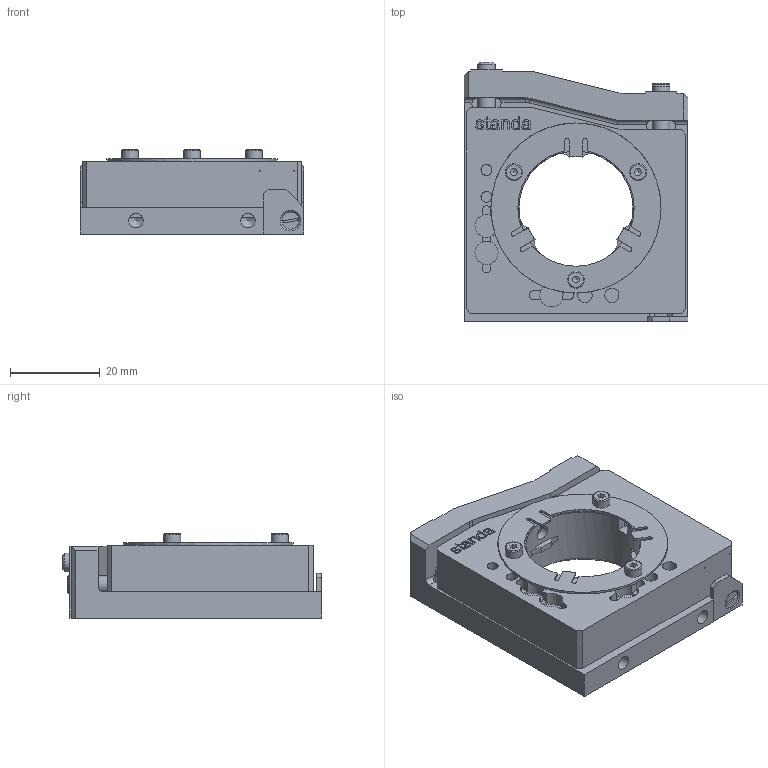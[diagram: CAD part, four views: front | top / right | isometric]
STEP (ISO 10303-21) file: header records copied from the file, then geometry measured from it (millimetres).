
FILE_DESCRIPTION(/* description */ (''),/* implementation_level */ '2;1');
FILE_NAME(/* name */ '5VDOM-1; 5KVDOM-1.stp',/* time_stamp */ '2024-03-07T10:58:52+02:00',/* author */ ('dsgn36'),/* organization */ (''),/* preprocessor_version */ 'ST-DEVELOPER v20',/* originating_system */ 'Autodesk Inventor 2024',/* authorisation */ '');
FILE_SCHEMA (('AUTOMOTIVE_DESIGN { 1 0 10303 214 3 1 1 }'));
Length unit declared in the file: millimetre
Products named in the file (1): 5VDOM-1 SB_Simplify_1
Bounding box: 50 x 58 x 18.8 mm (x, y, z)
Volume: 31067.8 mm3; surface area: 11424.2 mm2
Topology: 1 solids, 1 shells, 479 faces, 1292 edges, 847 vertices
Faces by surface type: plane 273, cylinder 91, bspline 83, cone 26, torus 4, sphere 2
Full cylindrical faces by diameter (mm): 1.5 x1, 1.567 x1, 2 x2, 2.459 x4, 2.5 x1, 3.2 x2, 3.242 x4, 3.3 x1, 3.8 x3, 4 x6, 5.2 x6, 29 x1, 38 x1
Entity records: 16307 total; most frequent: CARTESIAN_POINT 4253, ORIENTED_EDGE 2560, DIRECTION 2126, EDGE_CURVE 1280, VERTEX_POINT 847, LINE 736, VECTOR 736, AXIS2_PLACEMENT_3D 695
